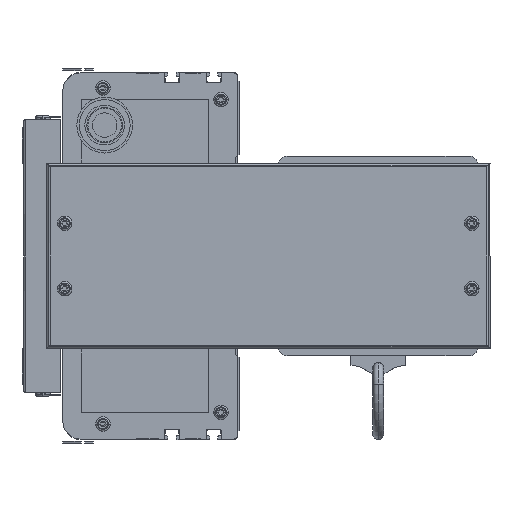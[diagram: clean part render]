
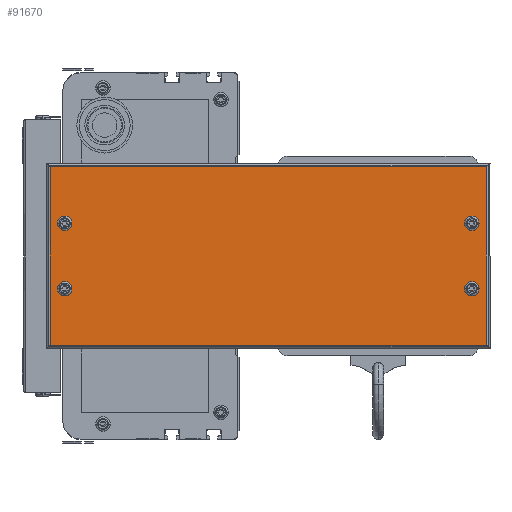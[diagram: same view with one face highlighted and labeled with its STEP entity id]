
A CAD part, left-side view. The second image highlights one B-rep face of the part: STEP entity #91670.
In plain terms, the highlighted planar face has unit normal (-1, 0, 0) as drawn and (1, 0, 0) by its records, which use the part's own axes.
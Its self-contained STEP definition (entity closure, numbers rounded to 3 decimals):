
#2156 = CARTESIAN_POINT ( 'NONE',  ( 50., 234., -33. ) ) ;
#2166 = CIRCLE ( 'NONE', #2305, 2.5 ) ;
#2302 = DIRECTION ( 'NONE',  ( 0., 0., -1. ) ) ;
#2304 = DIRECTION ( 'NONE',  ( 1., 0., 0. ) ) ;
#2305 = AXIS2_PLACEMENT_3D ( 'NONE', #2156, #2304, #2302 ) ;
#30696 = DIRECTION ( 'NONE',  ( 0., 0., -1. ) ) ;
#30698 = DIRECTION ( 'NONE',  ( 1., 0., 0. ) ) ;
#30701 = AXIS2_PLACEMENT_3D ( 'NONE', #30730, #30698, #30696 ) ;
#30717 = CIRCLE ( 'NONE', #30701, 2.5 ) ;
#30730 = CARTESIAN_POINT ( 'NONE',  ( 50., 234., -69. ) ) ;
#91525 = VERTEX_POINT ( 'NONE', #156469 ) ;
#91527 = EDGE_CURVE ( 'NONE', #91525, #91648, #156461, .T. ) ;
#91535 = VERTEX_POINT ( 'NONE', #156591 ) ;
#91542 = ORIENTED_EDGE ( 'NONE', *, *, #92874, .F. ) ;
#91550 = EDGE_CURVE ( 'NONE', #91551, #91649, #156576, .T. ) ;
#91551 = VERTEX_POINT ( 'NONE', #156650 ) ;
#91565 = EDGE_LOOP ( 'NONE', ( #91542, #92425 ) ) ;
#91566 = VERTEX_POINT ( 'NONE', #156760 ) ;
#91579 = EDGE_CURVE ( 'NONE', #91648, #91525, #156921, .T. ) ;
#91580 = VERTEX_POINT ( 'NONE', #156893 ) ;
#91581 = VERTEX_POINT ( 'NONE', #156890 ) ;
#91582 = VERTEX_POINT ( 'NONE', #156885 ) ;
#91583 = ORIENTED_EDGE ( 'NONE', *, *, #91659, .F. ) ;
#91584 = ORIENTED_EDGE ( 'NONE', *, *, #91660, .T. ) ;
#91587 = EDGE_LOOP ( 'NONE', ( #91655, #91666 ) ) ;
#91588 = EDGE_LOOP ( 'NONE', ( #91583, #91763 ) ) ;
#91598 = EDGE_CURVE ( 'NONE', #91535, #91599, #156984, .T. ) ;
#91599 = VERTEX_POINT ( 'NONE', #156994 ) ;
#91648 = VERTEX_POINT ( 'NONE', #157085 ) ;
#91649 = VERTEX_POINT ( 'NONE', #157077 ) ;
#91652 = EDGE_CURVE ( 'NONE', #91664, #91582, #157037, .T. ) ;
#91653 = ORIENTED_EDGE ( 'NONE', *, *, #91652, .T. ) ;
#91655 = ORIENTED_EDGE ( 'NONE', *, *, #91579, .F. ) ;
#91656 = EDGE_LOOP ( 'NONE', ( #91584, #91665, #91653, #91669 ) ) ;
#91659 = EDGE_CURVE ( 'NONE', #91599, #91535, #157080, .T. ) ;
#91660 = EDGE_CURVE ( 'NONE', #91580, #91581, #157220, .T. ) ;
#91662 = EDGE_CURVE ( 'NONE', #91582, #91580, #157180, .T. ) ;
#91664 = VERTEX_POINT ( 'NONE', #157164 ) ;
#91665 = ORIENTED_EDGE ( 'NONE', *, *, #91667, .T. ) ;
#91666 = ORIENTED_EDGE ( 'NONE', *, *, #91527, .F. ) ;
#91667 = EDGE_CURVE ( 'NONE', #91581, #91664, #157190, .T. ) ;
#91669 = ORIENTED_EDGE ( 'NONE', *, *, #91662, .T. ) ;
#91670 = ADVANCED_FACE ( 'NONE', ( #157215, #157145, #157221, #157157, #157155 ), #157210, .F. ) ;
#91763 = ORIENTED_EDGE ( 'NONE', *, *, #91598, .F. ) ;
#91805 = EDGE_CURVE ( 'NONE', #91808, #91566, #157796, .T. ) ;
#91808 = VERTEX_POINT ( 'NONE', #157739 ) ;
#92425 = ORIENTED_EDGE ( 'NONE', *, *, #91550, .F. ) ;
#92427 = EDGE_CURVE ( 'NONE', #91566, #91808, #2166, .T. ) ;
#92679 = ORIENTED_EDGE ( 'NONE', *, *, #92427, .F. ) ;
#92874 = EDGE_CURVE ( 'NONE', #91649, #91551, #30717, .T. ) ;
#92877 = ORIENTED_EDGE ( 'NONE', *, *, #91805, .F. ) ;
#92890 = EDGE_LOOP ( 'NONE', ( #92679, #92877 ) ) ;
#156461 = CIRCLE ( 'NONE', #156501, 2.5 ) ;
#156469 = CARTESIAN_POINT ( 'NONE',  ( 50., 10., -66.5 ) ) ;
#156501 = AXIS2_PLACEMENT_3D ( 'NONE', #156615, #156613, #156612 ) ;
#156576 = CIRCLE ( 'NONE', #156666, 2.5 ) ;
#156591 = CARTESIAN_POINT ( 'NONE',  ( 50., 10., -30.5 ) ) ;
#156612 = DIRECTION ( 'NONE',  ( 0., 0., -1. ) ) ;
#156613 = DIRECTION ( 'NONE',  ( 1., 0., 0. ) ) ;
#156615 = CARTESIAN_POINT ( 'NONE',  ( 50., 10., -69. ) ) ;
#156638 = DIRECTION ( 'NONE',  ( 0., 0., -1. ) ) ;
#156641 = DIRECTION ( 'NONE',  ( 1., 0., 0. ) ) ;
#156650 = CARTESIAN_POINT ( 'NONE',  ( 50., 234., -66.5 ) ) ;
#156666 = AXIS2_PLACEMENT_3D ( 'NONE', #156679, #156641, #156638 ) ;
#156679 = CARTESIAN_POINT ( 'NONE',  ( 50., 234., -69. ) ) ;
#156760 = CARTESIAN_POINT ( 'NONE',  ( 50., 234., -35.5 ) ) ;
#156818 = AXIS2_PLACEMENT_3D ( 'NONE', #156897, #156820, #156876 ) ;
#156820 = DIRECTION ( 'NONE',  ( 1., 0., 0. ) ) ;
#156876 = DIRECTION ( 'NONE',  ( 0., 0., -1. ) ) ;
#156885 = CARTESIAN_POINT ( 'NONE',  ( 50., 242., -100. ) ) ;
#156890 = CARTESIAN_POINT ( 'NONE',  ( 50., 2., -2. ) ) ;
#156893 = CARTESIAN_POINT ( 'NONE',  ( 50., 242., -2. ) ) ;
#156897 = CARTESIAN_POINT ( 'NONE',  ( 50., 10., -69. ) ) ;
#156921 = CIRCLE ( 'NONE', #156818, 2.5 ) ;
#156959 = DIRECTION ( 'NONE',  ( 0., 0., -1. ) ) ;
#156961 = DIRECTION ( 'NONE',  ( 1., 0., 0. ) ) ;
#156962 = CARTESIAN_POINT ( 'NONE',  ( 50., 10., -33. ) ) ;
#156984 = CIRCLE ( 'NONE', #156999, 2.5 ) ;
#156994 = CARTESIAN_POINT ( 'NONE',  ( 50., 10., -35.5 ) ) ;
#156999 = AXIS2_PLACEMENT_3D ( 'NONE', #156962, #156961, #156959 ) ;
#157036 = CARTESIAN_POINT ( 'NONE',  ( 50., 244., -100. ) ) ;
#157037 = LINE ( 'NONE', #157036, #157067 ) ;
#157047 = AXIS2_PLACEMENT_3D ( 'NONE', #157219, #157195, #157192 ) ;
#157066 = DIRECTION ( 'NONE',  ( 0., 1., 0. ) ) ;
#157067 = VECTOR ( 'NONE', #157066, 1000. ) ;
#157077 = CARTESIAN_POINT ( 'NONE',  ( 50., 234., -71.5 ) ) ;
#157080 = CIRCLE ( 'NONE', #157047, 2.5 ) ;
#157085 = CARTESIAN_POINT ( 'NONE',  ( 50., 10., -71.5 ) ) ;
#157145 = FACE_BOUND ( 'NONE', #91587, .T. ) ;
#157146 = DIRECTION ( 'NONE',  ( 0., 0., -1. ) ) ;
#157149 = VECTOR ( 'NONE', #157146, 1000. ) ;
#157150 = CARTESIAN_POINT ( 'NONE',  ( 50., 244., 0. ) ) ;
#157155 = FACE_BOUND ( 'NONE', #92890, .T. ) ;
#157157 = FACE_BOUND ( 'NONE', #91565, .T. ) ;
#157163 = AXIS2_PLACEMENT_3D ( 'NONE', #157150, #157291, #157290 ) ;
#157164 = CARTESIAN_POINT ( 'NONE',  ( 50., 2., -100. ) ) ;
#157170 = DIRECTION ( 'NONE',  ( 0., 0., 1. ) ) ;
#157173 = VECTOR ( 'NONE', #157170, 1000. ) ;
#157176 = CARTESIAN_POINT ( 'NONE',  ( 50., 242., 0. ) ) ;
#157180 = LINE ( 'NONE', #157176, #157173 ) ;
#157183 = DIRECTION ( 'NONE',  ( 0., -1., 0. ) ) ;
#157184 = VECTOR ( 'NONE', #157183, 1000. ) ;
#157189 = CARTESIAN_POINT ( 'NONE',  ( 50., 2., 0. ) ) ;
#157190 = LINE ( 'NONE', #157189, #157149 ) ;
#157192 = DIRECTION ( 'NONE',  ( 0., 0., -1. ) ) ;
#157195 = DIRECTION ( 'NONE',  ( 1., 0., 0. ) ) ;
#157204 = CARTESIAN_POINT ( 'NONE',  ( 50., 244., -2. ) ) ;
#157210 = PLANE ( 'NONE',  #157163 ) ;
#157215 = FACE_OUTER_BOUND ( 'NONE', #91656, .T. ) ;
#157219 = CARTESIAN_POINT ( 'NONE',  ( 50., 10., -33. ) ) ;
#157220 = LINE ( 'NONE', #157204, #157184 ) ;
#157221 = FACE_BOUND ( 'NONE', #91588, .T. ) ;
#157290 = DIRECTION ( 'NONE',  ( 0., 0., 1. ) ) ;
#157291 = DIRECTION ( 'NONE',  ( -1., 0., 0. ) ) ;
#157739 = CARTESIAN_POINT ( 'NONE',  ( 50., 234., -30.5 ) ) ;
#157796 = CIRCLE ( 'NONE', #157806, 2.5 ) ;
#157806 = AXIS2_PLACEMENT_3D ( 'NONE', #157881, #157879, #157876 ) ;
#157876 = DIRECTION ( 'NONE',  ( 0., 0., -1. ) ) ;
#157879 = DIRECTION ( 'NONE',  ( 1., 0., 0. ) ) ;
#157881 = CARTESIAN_POINT ( 'NONE',  ( 50., 234., -33. ) ) ;
